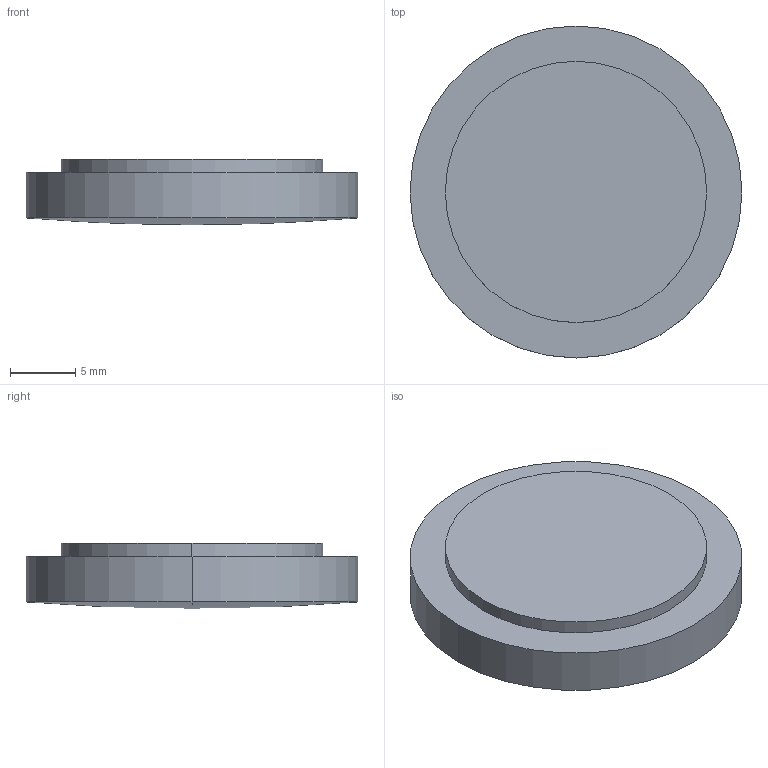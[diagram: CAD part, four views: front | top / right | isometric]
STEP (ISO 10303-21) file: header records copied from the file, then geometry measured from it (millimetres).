
FILE_DESCRIPTION(('STEP AP214'),'1');
FILE_NAME('LLR-25380.STEP','2020-03-09T17:41:59',(' '),(' '),'Spatial InterOp 3D',' ',' ');
FILE_SCHEMA(('AUTOMOTIVE_DESIGN { 1 0 10303 214 1 1 1 1 }'));
Length unit declared in the file: millimetre
Products named in the file (1): 1
Bounding box: 25.4 x 25.4 x 5 mm (x, y, z)
Volume: 2210.7 mm3; surface area: 1983.5 mm2
Topology: 2 solids, 2 shells, 9 faces, 16 edges, 9 vertices
Faces by surface type: cylinder 4, plane 3, sphere 2
Entity records: 229 total; most frequent: DIRECTION 46, CARTESIAN_POINT 34, ORIENTED_EDGE 28, AXIS2_PLACEMENT_3D 21, EDGE_CURVE 14, CIRCLE 10, ADVANCED_FACE 9, FACE_OUTER_BOUND 9
